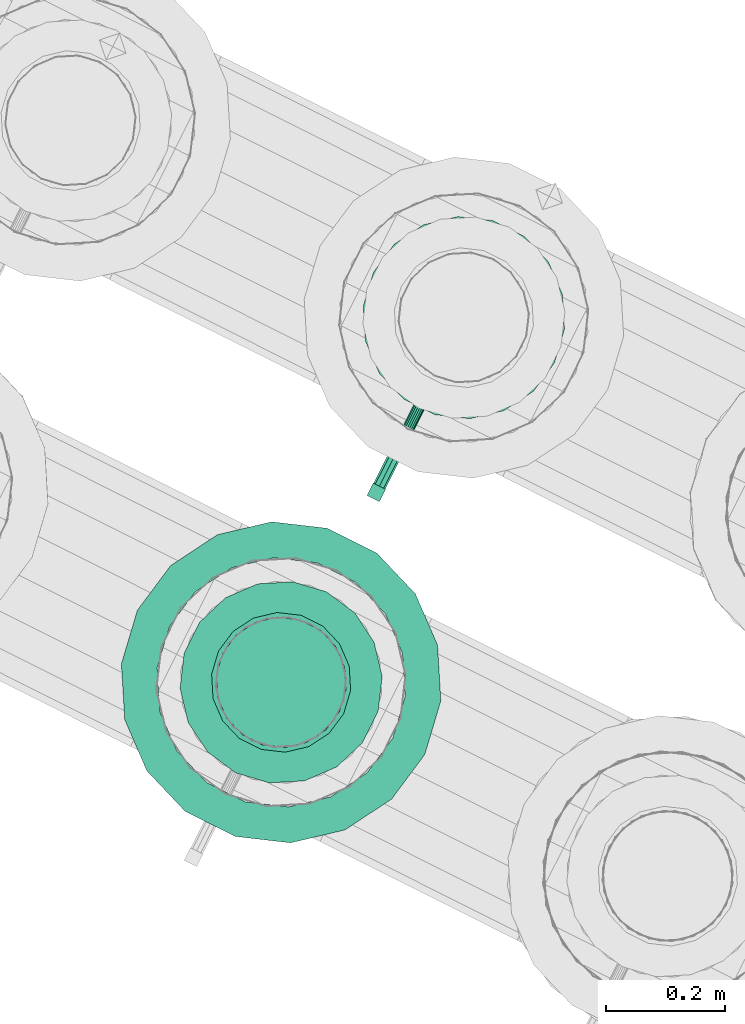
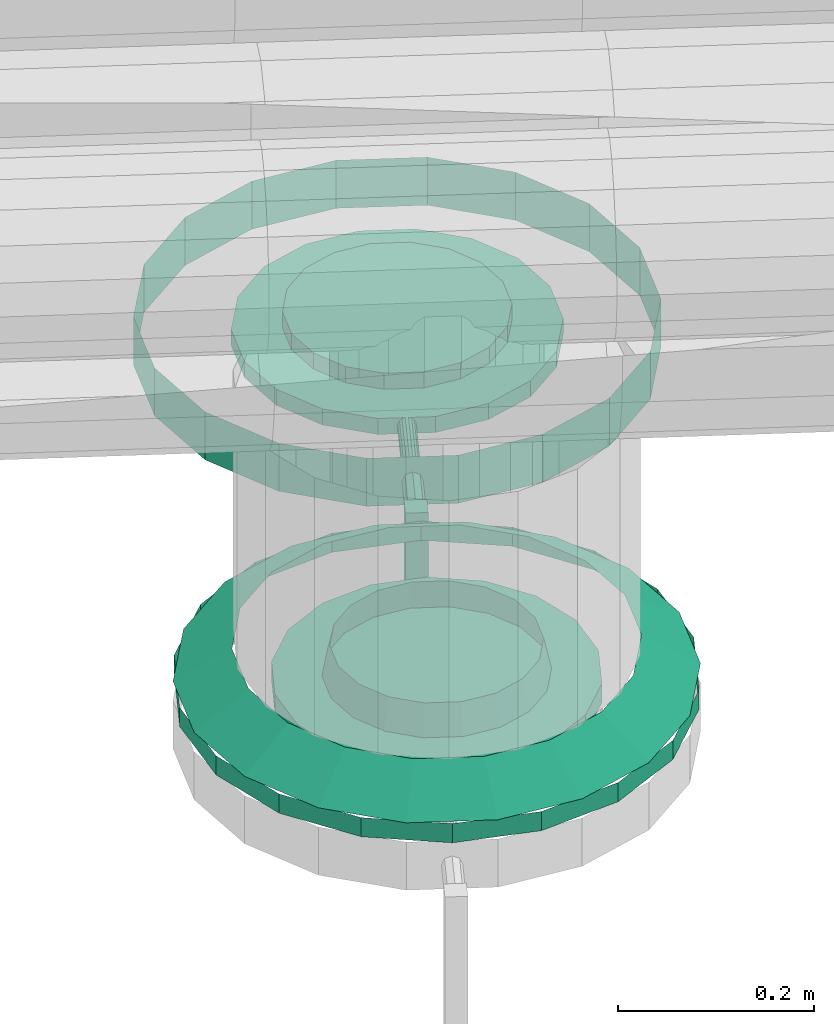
# One storey, part 92 of 152: 1 flow controller, 1 flow fitting.
"""IFC2X3 building model written with IfcOpenShell, lengths in metres."""

from ifc_helpers import new_model, si_unit, derived_unit, direction, frame, origin, place, context, subcontext, project, spatial, face_set, surface_model, source, transform, mapped, material, type_object, type_shapes, element, save


model = new_model("IFC2X3")

# Units and contexts
model_context = context("Model", 3, precision=5.2338327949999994e-05, world=origin(), true_north=direction((0.0, 1.0)))
body_context = subcontext(model_context, "Body", "Model", "MODEL_VIEW")
ifc_project = project(units=[si_unit("LENGTHUNIT", "METRE"), si_unit("AREAUNIT", "SQUARE_METRE"), si_unit("VOLUMEUNIT", "CUBIC_METRE"), si_unit("MASSUNIT", "GRAM", prefix="KILO"), si_unit("PLANEANGLEUNIT", "RADIAN"), derived_unit("THERMALTRANSMITTANCEUNIT", [(si_unit("MASSUNIT", "GRAM", prefix="KILO"), 1), (si_unit("THERMODYNAMICTEMPERATUREUNIT", "KELVIN"), -1), (si_unit("TIMEUNIT", "SECOND"), -3)])], contexts=[model_context])

# Site, building, storey
site_placement = place(None, frame((0.0, 0.0, 0.0), z_axis=(0.0, 0.0, 1.0), x_axis=(0.8939966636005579, -0.4480736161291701, 0.0)))
site = spatial("IfcSite", under=ifc_project, at=site_placement, Name="Default", CompositionType="ELEMENT")
building_placement = place(site_placement, origin())
building = spatial("IfcBuilding", under=site, at=building_placement, CompositionType="ELEMENT")
storey_placement = place(building_placement, frame((0.0, 0.0, 2.7499999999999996)))
storey = spatial("IfcBuildingStorey", under=building, at=storey_placement, Name="1. Obergeschoss", CompositionType="ELEMENT", Elevation=2.7499999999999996)

# Flow fitting
ifc_material_1 = material(Name="IfcSurfaceStyle #9317")
distribution_element_type_1 = type_object("IfcDistributionElementType", Name="Flansch 245489:Flansch 245489", material=ifc_material_1)
shared_shape_1 = source(origin(), body_context, "Body", "SurfaceModel", [
    surface_model("IfcFaceBasedSurfaceModel", [(5.751869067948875, 7.327208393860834, 5.052622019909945), (5.758475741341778, 7.36467670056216, 5.052622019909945), (5.751005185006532, 7.367395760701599, 5.0146220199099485), (5.743919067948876, 7.327208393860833, 5.0146220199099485), (5.777498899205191, 7.397625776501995, 5.052622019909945), (5.771408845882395, 7.402735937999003, 5.0146220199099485), (5.806644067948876, 7.42208147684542, 5.052622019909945), (5.802669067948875, 7.428966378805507, 5.014622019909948), (5.842395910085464, 7.435094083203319, 5.052622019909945), (5.841015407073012, 7.442923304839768, 5.014622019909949), (5.880442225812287, 7.435094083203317, 5.052622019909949), (5.881822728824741, 7.442923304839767, 5.0146220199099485), (5.916194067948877, 7.4220814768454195, 5.052622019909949), (5.920169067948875, 7.428966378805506, 5.014622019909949), (5.94533923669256, 7.397625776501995, 5.052622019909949), (5.951429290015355, 7.402735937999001, 5.014622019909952), (5.964362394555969, 7.364676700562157, 5.05262201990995), (5.97183295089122, 7.367395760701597, 5.014622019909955), (5.970969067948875, 7.3272083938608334, 5.05262201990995), (5.978919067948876, 7.327208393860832, 5.014622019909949), (5.964362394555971, 7.289740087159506, 5.0526220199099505), (5.971832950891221, 7.287021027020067, 5.014622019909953), (5.94533923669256, 7.256791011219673, 5.05262201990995), (5.951429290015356, 7.251680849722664, 5.014622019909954), (5.916194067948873, 7.2323353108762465, 5.052622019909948), (5.920169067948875, 7.2254504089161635, 5.0146220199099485), (5.880442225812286, 7.219322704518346, 5.052622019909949), (5.88182272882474, 7.211493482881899, 5.014622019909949), (5.842395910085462, 7.219322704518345, 5.052622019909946), (5.8410154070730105, 7.211493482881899, 5.014622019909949), (5.806644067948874, 7.232335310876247, 5.052622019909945), (5.802669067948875, 7.2254504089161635, 5.0146220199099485), (5.77749889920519, 7.256791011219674, 5.052622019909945), (5.771408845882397, 7.251680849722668, 5.014622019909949), (5.758475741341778, 7.289740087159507, 5.052622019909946), (5.751005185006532, 7.287021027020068, 5.0146220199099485), (5.8614190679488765, 7.497208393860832, 5.0146220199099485), (5.91956249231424, 7.486956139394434, 5.01462201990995), (5.91956249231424, 7.486956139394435, 4.990622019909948), (5.8614190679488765, 7.4972083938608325, 4.990622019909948), (5.970692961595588, 7.457435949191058, 5.01462201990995), (5.970692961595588, 7.457435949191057, 4.990622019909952), (6.008643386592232, 7.4122083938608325, 5.014622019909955), (6.008643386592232, 7.412208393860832, 4.990622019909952), (6.028836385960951, 7.356728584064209, 5.014622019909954), (6.028836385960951, 7.356728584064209, 4.990622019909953), (6.02883638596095, 7.297688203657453, 5.014622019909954), (6.028836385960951, 7.297688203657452, 4.990622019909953), (6.00864338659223, 7.24220839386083, 5.014622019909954), (6.00864338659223, 7.24220839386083, 4.990622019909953), (5.970692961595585, 7.196980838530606, 5.014622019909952), (5.970692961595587, 7.196980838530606, 4.990622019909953), (5.919562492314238, 7.1674606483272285, 5.01462201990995), (5.919562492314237, 7.167460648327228, 4.990622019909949), (5.861419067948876, 7.15720839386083, 5.0146220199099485), (5.861419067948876, 7.157208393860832, 4.990622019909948), (5.803275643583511, 7.167460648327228, 5.0146220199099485), (5.803275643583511, 7.167460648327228, 4.990622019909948), (5.7521451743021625, 7.196980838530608, 5.0146220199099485), (5.752145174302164, 7.196980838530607, 4.9906220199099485), (5.714194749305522, 7.242208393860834, 5.0146220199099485), (5.714194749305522, 7.242208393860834, 4.990622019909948), (5.694001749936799, 7.297688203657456, 5.014622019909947), (5.694001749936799, 7.297688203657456, 4.990622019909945), (5.694001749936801, 7.356728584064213, 5.014622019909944), (5.694001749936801, 7.356728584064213, 4.990622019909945), (5.714194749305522, 7.412208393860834, 5.0146220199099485), (5.714194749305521, 7.412208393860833, 4.990622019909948), (5.752145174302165, 7.457435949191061, 5.0146220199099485), (5.752145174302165, 7.457435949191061, 4.990622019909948), (5.803275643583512, 7.486956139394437, 5.0146220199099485), (5.803275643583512, 7.486956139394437, 4.990622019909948), (5.861419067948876, 7.3272083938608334, 5.014622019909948), (5.651869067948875, 7.327208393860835, 5.052622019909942), (5.664506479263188, 7.398878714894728, 5.052622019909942), (5.60770206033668, 7.419553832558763, 5.014622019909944), (5.591419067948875, 7.3272083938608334, 5.014622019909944), (5.7008944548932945, 7.461904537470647, 5.052622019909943), (5.654587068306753, 7.5007610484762, 5.014622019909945), (5.756644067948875, 7.508684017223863, 5.052622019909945), (5.726419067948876, 7.561035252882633, 5.014622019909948), (5.8250310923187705, 7.533574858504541, 5.052622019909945), (5.814534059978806, 7.593106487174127, 5.0146220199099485), (5.89780704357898, 7.53357485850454, 5.05262201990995), (5.908304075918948, 7.5931064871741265, 5.01462201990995), (5.966194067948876, 7.508684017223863, 5.052622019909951), (5.996419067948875, 7.56103525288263, 5.01462201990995), (6.021943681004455, 7.461904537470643, 5.052622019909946), (6.068251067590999, 7.500761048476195, 5.014622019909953), (6.058331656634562, 7.398878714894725, 5.052622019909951), (6.115136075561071, 7.4195538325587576, 5.014622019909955), (6.070969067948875, 7.32720839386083, 5.0526220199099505), (6.131419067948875, 7.327208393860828, 5.014622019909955), (6.058331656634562, 7.255538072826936, 5.0526220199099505), (6.11513607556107, 7.234862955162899, 5.014622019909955), (6.021943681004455, 7.192512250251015, 5.052622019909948), (6.068251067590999, 7.153655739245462, 5.014622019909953), (5.966194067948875, 7.145732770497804, 5.052622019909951), (5.996419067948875, 7.093381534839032, 5.014622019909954), (5.897807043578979, 7.120841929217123, 5.0526220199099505), (5.908304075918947, 7.061310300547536, 5.014622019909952), (5.825031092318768, 7.120841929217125, 5.052622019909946), (5.814534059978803, 7.061310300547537, 5.0146220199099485), (5.756644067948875, 7.1457327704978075, 5.052622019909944), (5.726419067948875, 7.093381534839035, 5.014622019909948), (5.700894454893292, 7.19251225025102, 5.052622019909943), (5.65458706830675, 7.153655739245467, 5.014622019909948), (5.664506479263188, 7.2555380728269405, 5.052622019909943), (5.60770206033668, 7.234862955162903, 5.014622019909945), (5.861419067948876, 7.59720839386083, 5.0146220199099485), (5.953764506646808, 7.580925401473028, 5.01462201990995), (5.953764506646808, 7.580925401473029, 4.990622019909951), (5.861419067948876, 7.597208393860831, 4.990622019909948), (6.034971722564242, 7.534040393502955, 5.01462201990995), (6.034971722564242, 7.534040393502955, 4.990622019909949), (6.095245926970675, 7.462208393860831, 5.014622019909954), (6.095245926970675, 7.462208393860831, 4.990622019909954), (6.127317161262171, 7.374093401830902, 5.014622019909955), (6.127317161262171, 7.374093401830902, 4.990622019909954), (6.127317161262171, 7.280323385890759, 5.014622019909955), (6.127317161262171, 7.280323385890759, 4.990622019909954), (6.095245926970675, 7.192208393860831, 5.014622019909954), (6.095245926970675, 7.192208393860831, 4.990622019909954), (6.034971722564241, 7.120376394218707, 5.014622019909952), (6.034971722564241, 7.120376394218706, 4.990622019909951), (5.953764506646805, 7.073491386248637, 5.014622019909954), (5.953764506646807, 7.0734913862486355, 4.990622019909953), (5.861419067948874, 7.057208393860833, 5.014622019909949), (5.861419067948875, 7.057208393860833, 4.9906220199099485), (5.769073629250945, 7.073491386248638, 5.014622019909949), (5.769073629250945, 7.073491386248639, 4.9906220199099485), (5.68786641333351, 7.1203763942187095, 5.014622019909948), (5.68786641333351, 7.1203763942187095, 4.990622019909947), (5.6275922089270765, 7.192208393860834, 5.014622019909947), (5.6275922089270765, 7.1922083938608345, 4.990622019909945), (5.595520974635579, 7.280323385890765, 5.014622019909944), (5.595520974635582, 7.280323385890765, 4.990622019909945), (5.595520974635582, 7.3740934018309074, 5.014622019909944), (5.595520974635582, 7.3740934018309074, 4.990622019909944), (5.6275922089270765, 7.462208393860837, 5.014622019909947), (5.6275922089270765, 7.462208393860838, 4.990622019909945), (5.687866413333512, 7.534040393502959, 5.014622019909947), (5.687866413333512, 7.534040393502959, 4.990622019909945), (5.769073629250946, 7.580925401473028, 5.014622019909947), (5.769073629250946, 7.580925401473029, 4.990622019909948)], [face_set([[[0, 1, 2, 3]], [[1, 4, 5, 2]], [[4, 6, 7, 5]], [[6, 8, 9, 7]], [[8, 10, 11, 9]], [[10, 12, 13, 11]], [[12, 14, 15, 13]], [[14, 16, 17, 15]], [[16, 18, 19, 17]], [[18, 20, 21, 19]], [[20, 22, 23, 21]], [[22, 24, 25, 23]], [[24, 26, 27, 25]], [[26, 28, 29, 27]], [[28, 30, 31, 29]], [[30, 32, 33, 31]], [[32, 34, 35, 33]], [[34, 0, 3, 35]], [[36, 37, 38, 39]], [[37, 40, 41, 38]], [[40, 42, 43, 41]], [[42, 44, 45, 43]], [[44, 46, 47, 45]], [[46, 48, 49, 47]], [[48, 50, 51, 49]], [[50, 52, 53, 51]], [[52, 54, 55, 53]], [[54, 56, 57, 55]], [[56, 58, 59, 57]], [[58, 60, 61, 59]], [[60, 62, 63, 61]], [[62, 64, 65, 63]], [[64, 66, 67, 65]], [[66, 68, 69, 67]], [[68, 70, 71, 69]], [[70, 36, 39, 71]], [[72, 37, 36]], [[72, 40, 37]], [[72, 42, 40]], [[72, 44, 42]], [[72, 46, 44]], [[72, 48, 46]], [[72, 50, 48]], [[72, 52, 50]], [[72, 54, 52]], [[72, 56, 54]], [[72, 58, 56]], [[72, 60, 58]], [[72, 62, 60]], [[72, 64, 62]], [[72, 66, 64]], [[72, 68, 66]], [[72, 70, 68]], [[72, 36, 70]], [[73, 74, 75, 76]], [[74, 77, 78, 75]], [[77, 79, 80, 78]], [[79, 81, 82, 80]], [[81, 83, 84, 82]], [[83, 85, 86, 84]], [[85, 87, 88, 86]], [[87, 89, 90, 88]], [[89, 91, 92, 90]], [[91, 93, 94, 92]], [[93, 95, 96, 94]], [[95, 97, 98, 96]], [[97, 99, 100, 98]], [[99, 101, 102, 100]], [[101, 103, 104, 102]], [[103, 105, 106, 104]], [[105, 107, 108, 106]], [[107, 73, 76, 108]], [[109, 110, 111, 112]], [[110, 113, 114, 111]], [[113, 115, 116, 114]], [[115, 117, 118, 116]], [[117, 119, 120, 118]], [[119, 121, 122, 120]], [[121, 123, 124, 122]], [[123, 125, 126, 124]], [[125, 127, 128, 126]], [[127, 129, 130, 128]], [[129, 131, 132, 130]], [[131, 133, 134, 132]], [[133, 135, 136, 134]], [[135, 137, 138, 136]], [[137, 139, 140, 138]], [[139, 141, 142, 140]], [[141, 143, 144, 142]], [[143, 109, 112, 144]]])]),
])
type_shapes(distribution_element_type_1, [shared_shape_1])
flow_fitting_placement = place(storey_placement, frame((0.0, 0.0, -2.7499999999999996)))
element("IfcFlowFitting", 1, at=flow_fitting_placement, inside=storey, type_object=distribution_element_type_1, material=ifc_material_1, Name="Flansch", ObjectType="Flansch", context=body_context, shape_type="MappedRepresentation", body=[
    mapped(shared_shape_1, transform((0.0, 0.0, 0.0), scale=1.0)),
])

# Flow controller
ifc_material_2 = material(Name="IfcSurfaceStyle #1741")
distribution_element_type_2 = type_object("IfcDistributionElementType", Name="Zwischenflanschklappe 247340:Zwischenflanschklappe 247340", material=ifc_material_2)
shared_shape_2 = source(origin(), body_context, "Body", "SurfaceModel", [
    surface_model("IfcFaceBasedSurfaceModel", [(5.849669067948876, 7.6957083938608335, 4.741522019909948), (5.849669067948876, 7.6957083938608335, 4.9723720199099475), (5.873169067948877, 7.6957083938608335, 4.9723720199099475), (5.873169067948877, 7.6957083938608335, 4.741522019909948), (5.873169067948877, 7.672208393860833, 4.9723720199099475), (5.873169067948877, 7.672208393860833, 4.741522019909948), (5.849669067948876, 7.672208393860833, 4.9723720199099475), (5.849669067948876, 7.672208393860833, 4.741522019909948), (5.978919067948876, 8.012208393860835, 4.930622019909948), (5.971832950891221, 8.0523957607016, 4.930622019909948), (5.971832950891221, 8.0523957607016, 4.9506220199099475), (5.978919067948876, 8.012208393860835, 4.9506220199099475), (5.951429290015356, 8.087735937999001, 4.930622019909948), (5.951429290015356, 8.087735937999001, 4.9506220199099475), (5.920169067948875, 8.113966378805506, 4.930622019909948), (5.920169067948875, 8.113966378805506, 4.9506220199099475), (5.881822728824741, 8.127923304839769, 4.930622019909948), (5.881822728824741, 8.127923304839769, 4.9506220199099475), (5.841015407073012, 8.127923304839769, 4.930622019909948), (5.841015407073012, 8.127923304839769, 4.9506220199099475), (5.802669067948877, 8.113966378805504, 4.930622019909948), (5.802669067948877, 8.113966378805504, 4.9506220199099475), (5.771408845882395, 8.087735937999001, 4.930622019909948), (5.771408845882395, 8.087735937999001, 4.9506220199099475), (5.751005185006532, 8.0523957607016, 4.930622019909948), (5.751005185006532, 8.0523957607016, 4.9506220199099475), (5.743919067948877, 8.012208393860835, 4.930622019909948), (5.743919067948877, 8.012208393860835, 4.9506220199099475), (5.751005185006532, 7.972021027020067, 4.930622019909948), (5.751005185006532, 7.972021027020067, 4.9506220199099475), (5.771408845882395, 7.9366808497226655, 4.930622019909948), (5.771408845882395, 7.9366808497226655, 4.9506220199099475), (5.802669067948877, 7.910450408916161, 4.930622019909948), (5.802669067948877, 7.910450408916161, 4.9506220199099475), (5.841015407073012, 7.896493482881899, 4.930622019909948), (5.841015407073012, 7.896493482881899, 4.9506220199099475), (5.881822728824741, 7.896493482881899, 4.930622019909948), (5.881822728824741, 7.896493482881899, 4.9506220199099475), (5.920169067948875, 7.910450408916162, 4.930622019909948), (5.920169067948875, 7.910450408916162, 4.9506220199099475), (5.951429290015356, 7.9366808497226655, 4.930622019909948), (5.951429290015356, 7.9366808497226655, 4.9506220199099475), (5.971832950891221, 7.972021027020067, 4.930622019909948), (5.971832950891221, 7.972021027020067, 4.9506220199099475), (5.861419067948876, 8.012208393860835, 4.930622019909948), (5.861419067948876, 8.012208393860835, 4.9506220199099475), (6.031419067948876, 8.012208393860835, 4.9506220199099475), (6.0211668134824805, 8.070351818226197, 4.9506220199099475), (6.0211668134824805, 8.070351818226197, 4.970622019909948), (6.031419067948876, 8.012208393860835, 4.970622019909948), (5.991646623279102, 8.121482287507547, 4.9506220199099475), (5.991646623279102, 8.121482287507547, 4.970622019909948), (5.9464190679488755, 8.159432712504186, 4.9506220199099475), (5.9464190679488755, 8.159432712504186, 4.970622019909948), (5.890939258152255, 8.179625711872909, 4.9506220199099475), (5.890939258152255, 8.179625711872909, 4.970622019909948), (5.831898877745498, 8.179625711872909, 4.9506220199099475), (5.831898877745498, 8.179625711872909, 4.970622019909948), (5.776419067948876, 8.159432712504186, 4.9506220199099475), (5.776419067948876, 8.159432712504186, 4.970622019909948), (5.731191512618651, 8.121482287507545, 4.9506220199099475), (5.731191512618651, 8.121482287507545, 4.970622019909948), (5.701671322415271, 8.070351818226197, 4.9506220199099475), (5.701671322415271, 8.070351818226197, 4.970622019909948), (5.6914190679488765, 8.012208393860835, 4.9506220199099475), (5.6914190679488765, 8.012208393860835, 4.970622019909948), (5.701671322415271, 7.9540649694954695, 4.9506220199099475), (5.701671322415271, 7.9540649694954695, 4.970622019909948), (5.731191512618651, 7.902934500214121, 4.9506220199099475), (5.731191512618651, 7.902934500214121, 4.970622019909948), (5.776419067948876, 7.864984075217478, 4.9506220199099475), (5.776419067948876, 7.864984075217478, 4.970622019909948), (5.831898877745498, 7.844791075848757, 4.9506220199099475), (5.831898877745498, 7.844791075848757, 4.970622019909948), (5.8909392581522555, 7.844791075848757, 4.9506220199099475), (5.8909392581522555, 7.844791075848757, 4.970622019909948), (5.9464190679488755, 7.864984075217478, 4.9506220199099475), (5.9464190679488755, 7.864984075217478, 4.970622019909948), (5.991646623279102, 7.902934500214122, 4.9506220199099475), (5.991646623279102, 7.902934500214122, 4.970622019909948), (6.021166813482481, 7.9540649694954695, 4.9506220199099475), (6.021166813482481, 7.9540649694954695, 4.970622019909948), (5.861419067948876, 8.012208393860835, 4.970622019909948), (5.978919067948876, 8.012208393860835, 4.970622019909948), (5.971832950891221, 8.0523957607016, 4.970622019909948), (5.971832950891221, 8.0523957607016, 4.990622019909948), (5.978919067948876, 8.012208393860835, 4.990622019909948), (5.951429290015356, 8.087735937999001, 4.970622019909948), (5.951429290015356, 8.087735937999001, 4.990622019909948), (5.920169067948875, 8.113966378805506, 4.970622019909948), (5.920169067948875, 8.113966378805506, 4.990622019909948), (5.881822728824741, 8.127923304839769, 4.970622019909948), (5.881822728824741, 8.127923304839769, 4.990622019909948), (5.841015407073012, 8.127923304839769, 4.970622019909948), (5.841015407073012, 8.127923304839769, 4.990622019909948), (5.802669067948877, 8.113966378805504, 4.970622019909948), (5.802669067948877, 8.113966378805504, 4.990622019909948), (5.771408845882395, 8.087735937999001, 4.970622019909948), (5.771408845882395, 8.087735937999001, 4.990622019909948), (5.751005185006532, 8.0523957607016, 4.970622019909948), (5.751005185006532, 8.0523957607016, 4.990622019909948), (5.743919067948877, 8.012208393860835, 4.970622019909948), (5.743919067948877, 8.012208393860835, 4.990622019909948), (5.751005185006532, 7.972021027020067, 4.970622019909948), (5.751005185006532, 7.972021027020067, 4.990622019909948), (5.771408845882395, 7.9366808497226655, 4.970622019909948), (5.771408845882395, 7.9366808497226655, 4.990622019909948), (5.802669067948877, 7.910450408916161, 4.970622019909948), (5.802669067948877, 7.910450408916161, 4.990622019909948), (5.841015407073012, 7.896493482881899, 4.970622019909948), (5.841015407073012, 7.896493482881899, 4.990622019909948), (5.881822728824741, 7.896493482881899, 4.970622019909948), (5.881822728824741, 7.896493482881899, 4.990622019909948), (5.920169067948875, 7.910450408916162, 4.970622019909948), (5.920169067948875, 7.910450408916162, 4.990622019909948), (5.951429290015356, 7.9366808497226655, 4.970622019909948), (5.951429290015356, 7.9366808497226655, 4.990622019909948), (5.971832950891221, 7.972021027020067, 4.970622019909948), (5.971832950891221, 7.972021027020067, 4.990622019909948), (5.861419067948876, 8.012208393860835, 4.990622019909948), (5.871419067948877, 8.012208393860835, 4.960622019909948), (5.870815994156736, 8.012208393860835, 4.964042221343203), (5.870815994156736, 7.768958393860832, 4.964042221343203), (5.871419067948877, 7.768958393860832, 4.960622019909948), (5.869079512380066, 8.012208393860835, 4.967049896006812), (5.869079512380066, 7.768958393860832, 4.967049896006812), (5.8664190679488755, 8.012208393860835, 4.969282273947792), (5.8664190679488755, 7.768958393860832, 4.969282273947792), (5.863155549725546, 8.012208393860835, 4.97047009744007), (5.863155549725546, 7.768958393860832, 4.97047009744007), (5.859682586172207, 8.012208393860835, 4.97047009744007), (5.859682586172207, 7.768958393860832, 4.97047009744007), (5.856419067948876, 8.012208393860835, 4.969282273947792), (5.856419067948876, 7.768958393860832, 4.969282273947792), (5.8537586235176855, 8.012208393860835, 4.967049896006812), (5.8537586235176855, 7.768958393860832, 4.967049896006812), (5.852022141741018, 8.012208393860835, 4.964042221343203), (5.852022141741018, 7.768958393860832, 4.964042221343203), (5.851419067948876, 8.012208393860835, 4.960622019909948), (5.851419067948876, 7.768958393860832, 4.960622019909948), (5.852022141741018, 8.012208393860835, 4.957201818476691), (5.852022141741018, 7.768958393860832, 4.957201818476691), (5.8537586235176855, 8.012208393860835, 4.9541941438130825), (5.8537586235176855, 7.768958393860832, 4.9541941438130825), (5.856419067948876, 8.012208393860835, 4.951961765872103), (5.856419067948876, 7.768958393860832, 4.951961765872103), (5.859682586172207, 8.012208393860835, 4.950773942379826), (5.859682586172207, 7.768958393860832, 4.950773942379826), (5.863155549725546, 8.012208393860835, 4.950773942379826), (5.863155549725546, 7.768958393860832, 4.950773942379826), (5.8664190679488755, 8.012208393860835, 4.951961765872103), (5.8664190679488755, 7.768958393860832, 4.951961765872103), (5.869079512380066, 8.012208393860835, 4.9541941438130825), (5.869079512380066, 7.768958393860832, 4.9541941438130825), (5.870815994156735, 8.012208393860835, 4.957201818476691), (5.870815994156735, 7.768958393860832, 4.957201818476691), (5.861419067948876, 8.012208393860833, 4.960622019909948), (5.861419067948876, 7.768958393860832, 4.960622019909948), (5.8723740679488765, 7.768958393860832, 4.960622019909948), (5.869165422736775, 7.768958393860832, 4.968368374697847), (5.869165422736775, 7.6957083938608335, 4.968368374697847), (5.8723740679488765, 7.6957083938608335, 4.960622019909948), (5.861419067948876, 7.768958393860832, 4.971577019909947), (5.861419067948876, 7.6957083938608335, 4.971577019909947), (5.853672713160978, 7.768958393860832, 4.968368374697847), (5.853672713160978, 7.6957083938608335, 4.968368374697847), (5.850464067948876, 7.768958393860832, 4.960622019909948), (5.850464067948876, 7.6957083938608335, 4.960622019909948), (5.853672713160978, 7.768958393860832, 4.952875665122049), (5.853672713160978, 7.6957083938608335, 4.952875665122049), (5.861419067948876, 7.768958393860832, 4.949667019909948), (5.861419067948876, 7.6957083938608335, 4.949667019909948), (5.869165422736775, 7.768958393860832, 4.952875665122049), (5.869165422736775, 7.6957083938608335, 4.952875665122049), (5.861419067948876, 7.6957083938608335, 4.960622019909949), (6.131419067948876, 8.012208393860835, 4.930622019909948), (6.115136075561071, 8.104553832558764, 4.930622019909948), (6.115136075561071, 8.104553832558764, 4.990622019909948), (6.131419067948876, 8.012208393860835, 4.990622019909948), (6.068251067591, 8.185761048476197, 4.930622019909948), (6.068251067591, 8.185761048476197, 4.990622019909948), (5.996419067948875, 8.246035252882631, 4.930622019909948), (5.996419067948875, 8.246035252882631, 4.990622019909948), (5.908304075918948, 8.27810648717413, 4.930622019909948), (5.908304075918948, 8.27810648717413, 4.990622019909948), (5.814534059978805, 8.27810648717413, 4.930622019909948), (5.814534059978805, 8.27810648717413, 4.990622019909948), (5.726419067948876, 8.246035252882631, 4.930622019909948), (5.726419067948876, 8.246035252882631, 4.990622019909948), (5.6545870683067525, 8.185761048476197, 4.930622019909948), (5.6545870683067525, 8.185761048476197, 4.990622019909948), (5.60770206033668, 8.104553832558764, 4.930622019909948), (5.60770206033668, 8.104553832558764, 4.990622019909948), (5.591419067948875, 8.012208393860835, 4.930622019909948), (5.591419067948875, 8.012208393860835, 4.990622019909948), (5.60770206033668, 7.919862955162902, 4.930622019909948), (5.60770206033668, 7.919862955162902, 4.990622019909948), (5.654587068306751, 7.838655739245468, 4.930622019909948), (5.654587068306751, 7.838655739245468, 4.990622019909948), (5.726419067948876, 7.778381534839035, 4.930622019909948), (5.726419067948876, 7.778381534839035, 4.990622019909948), (5.814534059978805, 7.746310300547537, 4.930622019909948), (5.814534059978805, 7.746310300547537, 4.990622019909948), (5.908304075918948, 7.746310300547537, 4.930622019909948), (5.908304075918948, 7.746310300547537, 4.990622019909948), (5.996419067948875, 7.778381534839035, 4.930622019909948), (5.996419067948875, 7.778381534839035, 4.990622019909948), (6.068251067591, 7.838655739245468, 4.930622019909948), (6.068251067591, 7.838655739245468, 4.990622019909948), (6.115136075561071, 7.919862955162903, 4.930622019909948), (6.115136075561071, 7.919862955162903, 4.990622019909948)], [face_set([[[0, 1, 2, 3]], [[3, 2, 4, 5]], [[5, 4, 6, 7]], [[7, 6, 1, 0]], [[0, 3, 5, 7]], [[6, 4, 2, 1]], [[8, 9, 10, 11]], [[9, 12, 13, 10]], [[12, 14, 15, 13]], [[14, 16, 17, 15]], [[16, 18, 19, 17]], [[18, 20, 21, 19]], [[20, 22, 23, 21]], [[22, 24, 25, 23]], [[24, 26, 27, 25]], [[26, 28, 29, 27]], [[28, 30, 31, 29]], [[30, 32, 33, 31]], [[32, 34, 35, 33]], [[34, 36, 37, 35]], [[36, 38, 39, 37]], [[38, 40, 41, 39]], [[40, 42, 43, 41]], [[42, 8, 11, 43]], [[44, 9, 8]], [[44, 12, 9]], [[44, 14, 12]], [[44, 16, 14]], [[44, 18, 16]], [[44, 20, 18]], [[44, 22, 20]], [[44, 24, 22]], [[44, 26, 24]], [[44, 28, 26]], [[44, 30, 28]], [[44, 32, 30]], [[44, 34, 32]], [[44, 36, 34]], [[44, 38, 36]], [[44, 40, 38]], [[44, 42, 40]], [[44, 8, 42]], [[45, 43, 11]], [[45, 41, 43]], [[45, 39, 41]], [[45, 37, 39]], [[45, 35, 37]], [[45, 33, 35]], [[45, 31, 33]], [[45, 29, 31]], [[45, 27, 29]], [[45, 25, 27]], [[45, 23, 25]], [[45, 21, 23]], [[45, 19, 21]], [[45, 17, 19]], [[45, 15, 17]], [[45, 13, 15]], [[45, 10, 13]], [[45, 11, 10]], [[46, 47, 48, 49]], [[47, 50, 51, 48]], [[50, 52, 53, 51]], [[52, 54, 55, 53]], [[54, 56, 57, 55]], [[56, 58, 59, 57]], [[58, 60, 61, 59]], [[60, 62, 63, 61]], [[62, 64, 65, 63]], [[64, 66, 67, 65]], [[66, 68, 69, 67]], [[68, 70, 71, 69]], [[70, 72, 73, 71]], [[72, 74, 75, 73]], [[74, 76, 77, 75]], [[76, 78, 79, 77]], [[78, 80, 81, 79]], [[80, 46, 49, 81]], [[45, 47, 46]], [[45, 50, 47]], [[45, 52, 50]], [[45, 54, 52]], [[45, 56, 54]], [[45, 58, 56]], [[45, 60, 58]], [[45, 62, 60]], [[45, 64, 62]], [[45, 66, 64]], [[45, 68, 66]], [[45, 70, 68]], [[45, 72, 70]], [[45, 74, 72]], [[45, 76, 74]], [[45, 78, 76]], [[45, 80, 78]], [[45, 46, 80]], [[82, 81, 49]], [[82, 79, 81]], [[82, 77, 79]], [[82, 75, 77]], [[82, 73, 75]], [[82, 71, 73]], [[82, 69, 71]], [[82, 67, 69]], [[82, 65, 67]], [[82, 63, 65]], [[82, 61, 63]], [[82, 59, 61]], [[82, 57, 59]], [[82, 55, 57]], [[82, 53, 55]], [[82, 51, 53]], [[82, 48, 51]], [[82, 49, 48]], [[83, 84, 85, 86]], [[84, 87, 88, 85]], [[87, 89, 90, 88]], [[89, 91, 92, 90]], [[91, 93, 94, 92]], [[93, 95, 96, 94]], [[95, 97, 98, 96]], [[97, 99, 100, 98]], [[99, 101, 102, 100]], [[101, 103, 104, 102]], [[103, 105, 106, 104]], [[105, 107, 108, 106]], [[107, 109, 110, 108]], [[109, 111, 112, 110]], [[111, 113, 114, 112]], [[113, 115, 116, 114]], [[115, 117, 118, 116]], [[117, 83, 86, 118]], [[82, 84, 83]], [[82, 87, 84]], [[82, 89, 87]], [[82, 91, 89]], [[82, 93, 91]], [[82, 95, 93]], [[82, 97, 95]], [[82, 99, 97]], [[82, 101, 99]], [[82, 103, 101]], [[82, 105, 103]], [[82, 107, 105]], [[82, 109, 107]], [[82, 111, 109]], [[82, 113, 111]], [[82, 115, 113]], [[82, 117, 115]], [[82, 83, 117]], [[119, 118, 86]], [[119, 116, 118]], [[119, 114, 116]], [[119, 112, 114]], [[119, 110, 112]], [[119, 108, 110]], [[119, 106, 108]], [[119, 104, 106]], [[119, 102, 104]], [[119, 100, 102]], [[119, 98, 100]], [[119, 96, 98]], [[119, 94, 96]], [[119, 92, 94]], [[119, 90, 92]], [[119, 88, 90]], [[119, 85, 88]], [[119, 86, 85]], [[120, 121, 122, 123]], [[121, 124, 125, 122]], [[124, 126, 127, 125]], [[126, 128, 129, 127]], [[128, 130, 131, 129]], [[130, 132, 133, 131]], [[132, 134, 135, 133]], [[134, 136, 137, 135]], [[136, 138, 139, 137]], [[138, 140, 141, 139]], [[140, 142, 143, 141]], [[142, 144, 145, 143]], [[144, 146, 147, 145]], [[146, 148, 149, 147]], [[148, 150, 151, 149]], [[150, 152, 153, 151]], [[152, 154, 155, 153]], [[154, 120, 123, 155]], [[156, 121, 120]], [[156, 124, 121]], [[156, 126, 124]], [[156, 128, 126]], [[156, 130, 128]], [[156, 132, 130]], [[156, 134, 132]], [[156, 136, 134]], [[156, 138, 136]], [[156, 140, 138]], [[156, 142, 140]], [[156, 144, 142]], [[156, 146, 144]], [[156, 148, 146]], [[156, 150, 148]], [[156, 152, 150]], [[156, 154, 152]], [[156, 120, 154]], [[157, 155, 123]], [[157, 153, 155]], [[157, 151, 153]], [[157, 149, 151]], [[157, 147, 149]], [[157, 145, 147]], [[157, 143, 145]], [[157, 141, 143]], [[157, 139, 141]], [[157, 137, 139]], [[157, 135, 137]], [[157, 133, 135]], [[157, 131, 133]], [[157, 129, 131]], [[157, 127, 129]], [[157, 125, 127]], [[157, 122, 125]], [[157, 123, 122]], [[158, 159, 160, 161]], [[159, 162, 163, 160]], [[162, 164, 165, 163]], [[164, 166, 167, 165]], [[166, 168, 169, 167]], [[168, 170, 171, 169]], [[170, 172, 173, 171]], [[172, 158, 161, 173]], [[174, 173, 161]], [[174, 171, 173]], [[174, 169, 171]], [[174, 167, 169]], [[174, 165, 167]], [[174, 163, 165]], [[174, 160, 163]], [[174, 161, 160]], [[175, 176, 177, 178]], [[176, 179, 180, 177]], [[179, 181, 182, 180]], [[181, 183, 184, 182]], [[183, 185, 186, 184]], [[185, 187, 188, 186]], [[187, 189, 190, 188]], [[189, 191, 192, 190]], [[191, 193, 194, 192]], [[193, 195, 196, 194]], [[195, 197, 198, 196]], [[197, 199, 200, 198]], [[199, 201, 202, 200]], [[201, 203, 204, 202]], [[203, 205, 206, 204]], [[205, 207, 208, 206]], [[207, 209, 210, 208]], [[209, 175, 178, 210]]])]),
])
type_shapes(distribution_element_type_2, [shared_shape_2])
flow_controller_placement = place(storey_placement, frame((0.0, 0.0, -2.7499999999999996)))
element("IfcFlowController", 2, at=flow_controller_placement, inside=storey, type_object=distribution_element_type_2, material=ifc_material_2, Name="Zwischenflanschklappe", ObjectType="Zwischenflanschklappe", context=body_context, shape_type="MappedRepresentation", body=[
    mapped(shared_shape_2, transform((0.0, 0.0, 0.0), scale=1.0)),
])

save(model, "model.ifc")
